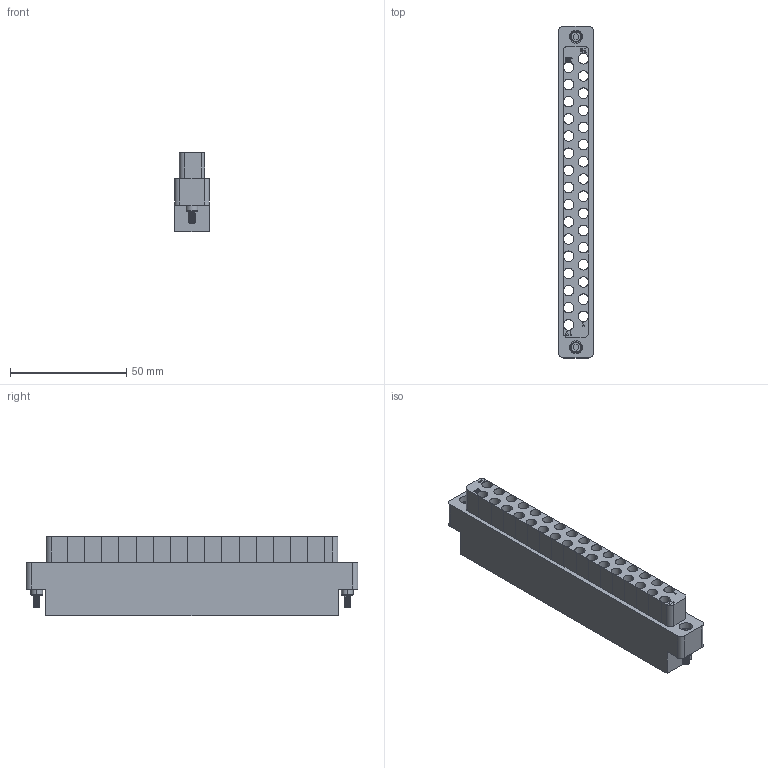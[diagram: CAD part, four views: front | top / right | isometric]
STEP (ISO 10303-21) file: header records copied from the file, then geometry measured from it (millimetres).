
FILE_DESCRIPTION (( 'STEP AP214' ), '1' );
FILE_NAME ('510108298 For Customer.STEP', '2026-10-06T18:58:38', ( 'VPC Computer System' ), ( '' ), 'SwSTEP 2.0', 'SolidWorks 2026', '' );
FILE_SCHEMA (( 'AUTOMOTIVE_DESIGN' ));
Length unit declared in the file: millimetre
Products named in the file (1): 510108298 For Customer
Bounding box: 14.99 x 142.49 x 33.96 mm (x, y, z)
Volume: 36949.8 mm3; surface area: 28231.3 mm2
Topology: 5 solids, 5 shells, 395 faces, 969 edges, 636 vertices
Faces by surface type: cylinder 200, plane 135, bspline 31, cone 21, torus 8
Entity records: 14739 total; most frequent: CARTESIAN_POINT 5232, DIRECTION 1948, ORIENTED_EDGE 1938, EDGE_CURVE 969, AXIS2_PLACEMENT_3D 746, VERTEX_POINT 636, EDGE_LOOP 519, VECTOR 456
